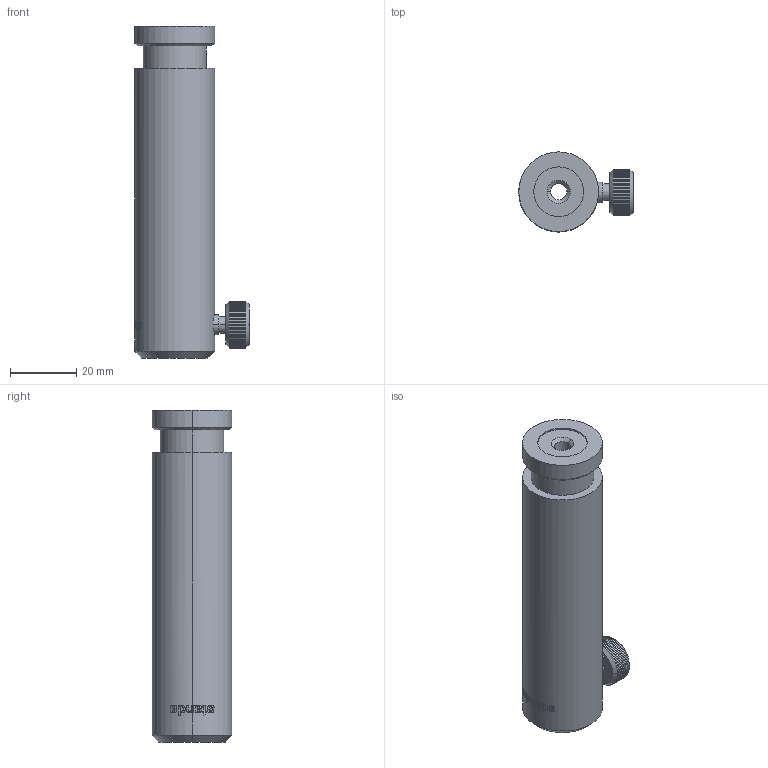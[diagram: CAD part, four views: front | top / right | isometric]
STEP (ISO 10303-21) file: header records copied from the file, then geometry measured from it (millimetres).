
FILE_DESCRIPTION (( 'STEP AP203' ), '1' );
FILE_NAME ('3PHB-100.STEP', '2011-07-04T05:43:52', ( 'Darius' ), ( '' ), 'SwSTEP 2.0', 'SolidWorks 2003240', '' );
FILE_SCHEMA (( 'CONFIG_CONTROL_DESIGN' ));
Length unit declared in the file: millimetre
Products named in the file (1): 3PHB-100
Bounding box: 34.42 x 24 x 100 mm (x, y, z)
Volume: 33302.1 mm3; surface area: 13041 mm2
Topology: 1 solids, 1 shells, 291 faces, 787 edges, 513 vertices
Faces by surface type: plane 166, bspline 72, cylinder 37, cone 16
Entity records: 11876 total; most frequent: CARTESIAN_POINT 5360, ORIENTED_EDGE 1570, DIRECTION 958, EDGE_CURVE 785, VERTEX_POINT 513, B_SPLINE_CURVE_WITH_KNOTS 358, AXIS2_PLACEMENT_3D 323, VECTOR 312
